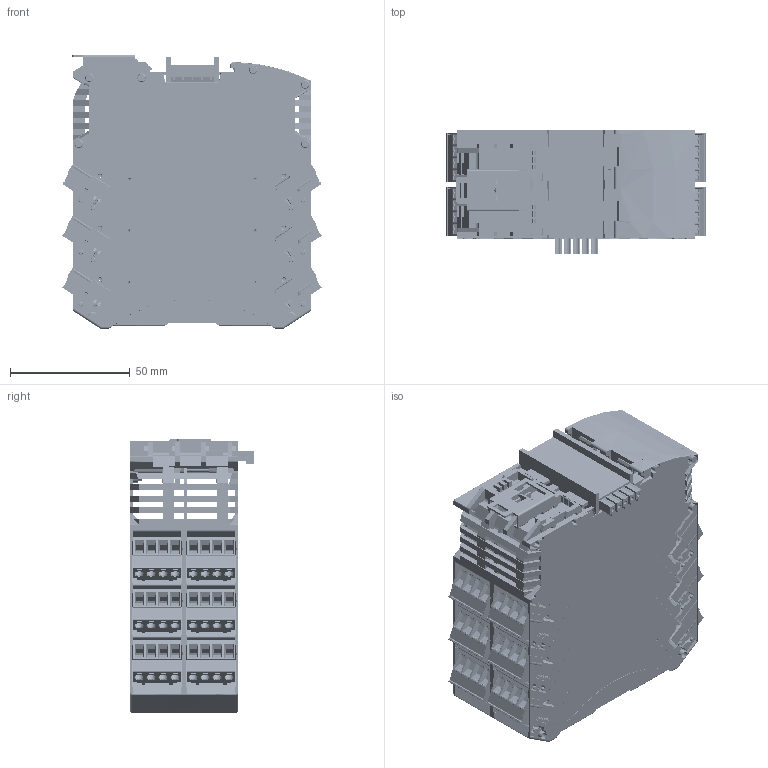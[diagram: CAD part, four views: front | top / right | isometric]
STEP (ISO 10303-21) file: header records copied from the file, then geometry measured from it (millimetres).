
FILE_DESCRIPTION(('STEP AP214'), '1');
FILE_NAME('ÍÏÊÃ.421457.169-003 NLS-32DI-Ethernet-2P â ñòåïêó ââââ', '2026-06-02T11:57:41', (''), (''), 'C3D Converter', 'C3D Toolkit', '');
FILE_SCHEMA(('AUTOMOTIVE_DESIGN { 1 0 10303 214 3 1 1}'));
Length unit declared in the file: millimetre
Bounding box: 107.97 x 51.81 x 114.2 mm (x, y, z)
Volume: 109847.6 mm3; surface area: 183979 mm2
Topology: 55 solids, 179 shells, 22749 faces, 64784 edges, 42723 vertices
Faces by surface type: plane 14883, extrusion 4236, cylinder 2995, torus 254, cone 228, sphere 75, bspline 60, revolution 18
Full cylindrical faces by diameter (mm): 0.8 x20, 1.4 x48, 1.5 x23, 1.6 x21, 2 x36, 2.8 x1, 3 x16, 3.1 x48, 4 x96, 4.5 x1
Entity records: 971479 total; most frequent: CARTESIAN_POINT 215929, ORIENTED_EDGE 128033, DIRECTION 99590, EDGE_CURVE 64064, VECTOR 50990, LINE 46754, VERTEX_POINT 43568, EDGE_LOOP 24740
